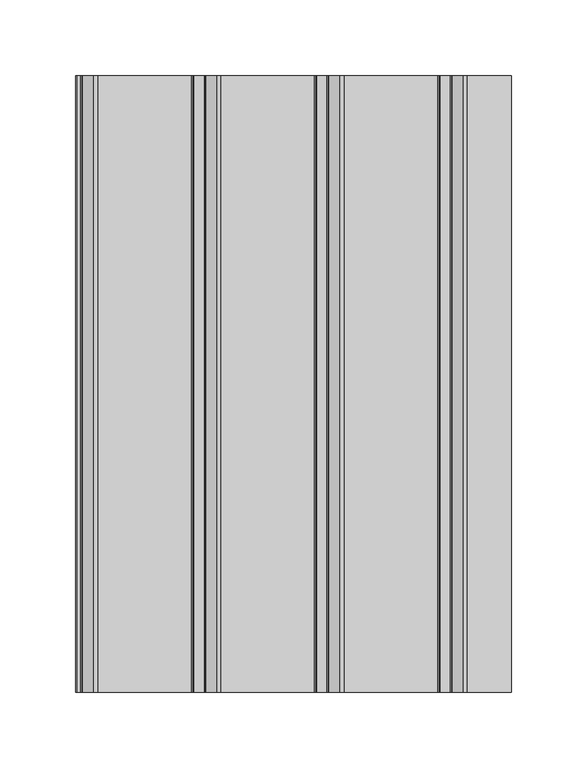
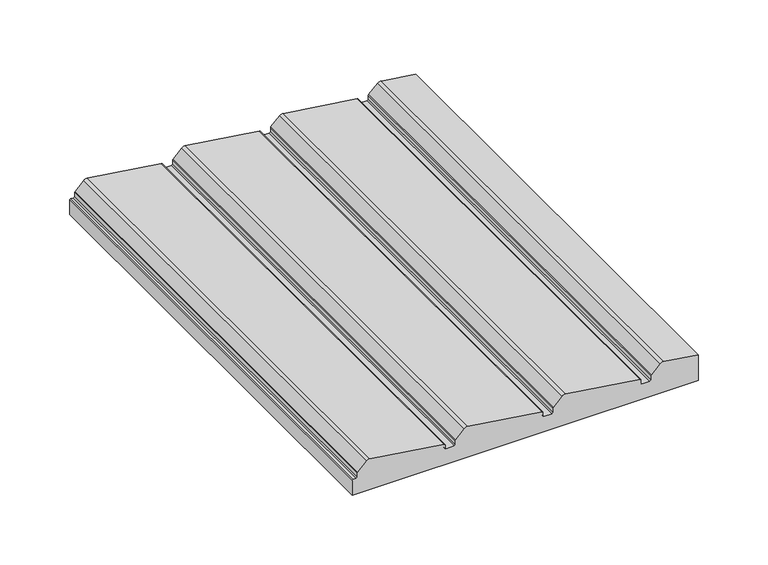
"""IFC4 building model written with IfcOpenShell, lengths in millimetres: proxy geometry, Spinneybeck_Porto 3 : Porto 3."""

from ifc_helpers import new_model, si_unit, point, frame, frame_2d, origin, place, context, project, spatial, polyline, circle_curve, trimmed, segment, composite_curve, outline, extrude, source, transform, mapped, element, save


def specialty_equipment_e988f940(model_context):
    return source(origin(), model_context, "Body", "SweptSolid", [
        extrude(outline(composite_curve([segment(polyline([(0.0, -203.2), (0.0, 84.1375), (22.7199362, 84.1375), (26.76592, 55.3488293)]), True, "CONTINUOUS"), segment(trimmed(circle_curve(frame_2d((23.4253126, 54.8793376)), 3.3734375), [point((26.76592, 55.3488293))], [point((25.8106931, 52.493957))], False, "CARTESIAN"), True, "CONTINUOUS"), segment(polyline([(25.8106931, 52.493957), (18.5722569, 45.2555208)]), True, "CONTINUOUS"), segment(trimmed(circle_curve(frame_2d((17.6791911, 46.1485866)), 1.2629857), [point((18.5722569, 45.2555208))], [point((17.6791911, 44.8856008))], False, "CARTESIAN"), True, "CONTINUOUS"), segment(polyline([(17.6791911, 44.8856008), (14.4921875, 44.8856008)]), True, "CONTINUOUS"), segment(trimmed(circle_curve(frame_2d((14.4921875, 43.8934133)), 0.9921875), [point((14.4921875, 44.8856008))], [point((13.5, 43.8934133))], True, "CARTESIAN"), True, "CONTINUOUS"), segment(polyline([(13.5, 43.8934133), (13.5, 37.3865867)]), True, "CONTINUOUS"), segment(trimmed(circle_curve(frame_2d((14.4921875, 37.3865867)), 0.9921875), [point((13.5, 37.3865867))], [point((14.4921875, 36.3943992))], True, "CARTESIAN"), True, "CONTINUOUS"), segment(polyline([(14.4921875, 36.3943992), (17.1606187, 36.3943992)]), True, "CONTINUOUS"), segment(trimmed(circle_curve(frame_2d((17.1606187, 35.4149387)), 0.9794605), [point((17.1606187, 36.3943992))], [point((18.1109851, 35.6518916))], False, "CARTESIAN"), True, "CONTINUOUS"), segment(polyline([(18.1109851, 35.6518916), (26.76592, -25.9311707)]), True, "CONTINUOUS"), segment(trimmed(circle_curve(frame_2d((23.4253126, -26.4006624)), 3.3734375), [point((26.76592, -25.9311707))], [point((25.8106931, -28.786043))], False, "CARTESIAN"), True, "CONTINUOUS"), segment(polyline([(25.8106931, -28.786043), (18.5722569, -36.0244792)]), True, "CONTINUOUS"), segment(trimmed(circle_curve(frame_2d((17.6791911, -35.1314134)), 1.2629857), [point((18.5722569, -36.0244792))], [point((17.6791911, -36.3943992))], False, "CARTESIAN"), True, "CONTINUOUS"), segment(polyline([(17.6791911, -36.3943992), (14.4921875, -36.3943992)]), True, "CONTINUOUS"), segment(trimmed(circle_curve(frame_2d((14.4921875, -37.3865867)), 0.9921875), [point((14.4921875, -36.3943992))], [point((13.5, -37.3865867))], True, "CARTESIAN"), True, "CONTINUOUS"), segment(polyline([(13.5, -37.3865867), (13.5, -43.8934133)]), True, "CONTINUOUS"), segment(trimmed(circle_curve(frame_2d((14.4921875, -43.8934133)), 0.9921875), [point((13.5, -43.8934133))], [point((14.4921875, -44.8856008))], True, "CARTESIAN"), True, "CONTINUOUS"), segment(polyline([(14.4921875, -44.8856008), (17.1606187, -44.8856008)]), True, "CONTINUOUS"), segment(trimmed(circle_curve(frame_2d((17.1606187, -45.8650613)), 0.9794605), [point((17.1606187, -44.8856008))], [point((18.1109851, -45.6281084))], False, "CARTESIAN"), True, "CONTINUOUS"), segment(polyline([(18.1109851, -45.6281084), (26.76592, -107.2111707)]), True, "CONTINUOUS"), segment(trimmed(circle_curve(frame_2d((23.4253126, -107.6806624)), 3.3734375), [point((26.76592, -107.2111707))], [point((25.8106931, -110.066043))], False, "CARTESIAN"), True, "CONTINUOUS"), segment(polyline([(25.8106931, -110.066043), (18.5722569, -117.3044792)]), True, "CONTINUOUS"), segment(trimmed(circle_curve(frame_2d((17.6791911, -116.4114134)), 1.2629857), [point((18.5722569, -117.3044792))], [point((17.6791911, -117.6743992))], False, "CARTESIAN"), True, "CONTINUOUS"), segment(polyline([(17.6791911, -117.6743992), (14.4921875, -117.6743992)]), True, "CONTINUOUS"), segment(trimmed(circle_curve(frame_2d((14.4921875, -118.6665867)), 0.9921875), [point((14.4921875, -117.6743992))], [point((13.5, -118.6665867))], True, "CARTESIAN"), True, "CONTINUOUS"), segment(polyline([(13.5, -118.6665867), (13.5, -125.1734133)]), True, "CONTINUOUS"), segment(trimmed(circle_curve(frame_2d((14.4921875, -125.1734133)), 0.9921875), [point((13.5, -125.1734133))], [point((14.4921875, -126.1656008))], True, "CARTESIAN"), True, "CONTINUOUS"), segment(polyline([(14.4921875, -126.1656008), (17.1606187, -126.1656008)]), True, "CONTINUOUS"), segment(trimmed(circle_curve(frame_2d((17.1606187, -127.1450613)), 0.9794605), [point((17.1606187, -126.1656008))], [point((18.1109851, -126.9081084))], False, "CARTESIAN"), True, "CONTINUOUS"), segment(polyline([(18.1109851, -126.9081084), (26.76592, -188.4911707)]), True, "CONTINUOUS"), segment(trimmed(circle_curve(frame_2d((23.4253126, -188.9606624)), 3.3734375), [point((26.76592, -188.4911707))], [point((25.8106931, -191.346043))], False, "CARTESIAN"), True, "CONTINUOUS"), segment(polyline([(25.8106931, -191.346043), (18.5722569, -198.5844792)]), True, "CONTINUOUS"), segment(trimmed(circle_curve(frame_2d((17.6791911, -197.6914134)), 1.2629857), [point((18.5722569, -198.5844792))], [point((17.6791911, -198.9543992))], False, "CARTESIAN"), True, "CONTINUOUS"), segment(polyline([(17.6791911, -198.9543992), (14.4921875, -198.9543992)]), True, "CONTINUOUS"), segment(trimmed(circle_curve(frame_2d((14.4921875, -199.9465867)), 0.9921875), [point((14.4921875, -198.9543992))], [point((13.5, -199.9465867))], True, "CARTESIAN"), True, "CONTINUOUS"), segment(polyline([(13.5, -199.9465867), (13.5, -202.2078125)]), True, "CONTINUOUS"), segment(trimmed(circle_curve(frame_2d((12.5078125, -202.2078125)), 0.9921875), [point((13.5, -202.2078125))], [point((12.5078125, -203.2))], False, "CARTESIAN"), True, "CONTINUOUS"), segment(polyline([(12.5078125, -203.2), (0.0, -203.2)]), True, "CONTINUOUS")], self_intersect=False)), frame((0.0, -203.2, 0.0), z_axis=(0.0, 1.0, 0.0), x_axis=(0.0, 0.0, 1.0)), (0.0, 0.0, 1.0), 406.4),
    ])


if __name__ == "__main__":
    model = new_model("IFC4")
    model_context = context("Model", 3, world=origin())
    ifc_project = project(units=[si_unit("LENGTHUNIT", "METRE", prefix="MILLI")], contexts=[model_context])
    site = spatial("IfcSite", under=ifc_project)
    building = spatial("IfcBuilding", under=site)
    placement = place(None, origin())
    specialty_equipment_shape = specialty_equipment_e988f940(model_context)
    element("IfcBuildingElementProxy", 1, Name="Spinneybeck_Porto 3 : Porto 3", ObjectType="Spinneybeck_Porto 3 : Porto 3", at=placement, inside=building, context=model_context, shape_type="MappedRepresentation", body=[
        mapped(specialty_equipment_shape, transform((0.0, 0.0, 0.0), x_axis=(1.0, 0.0, 0.0), y_axis=(0.0, 1.0, 0.0), z_axis=(0.0, 0.0, 1.0))),
    ])
    save(model, "model.ifc")
